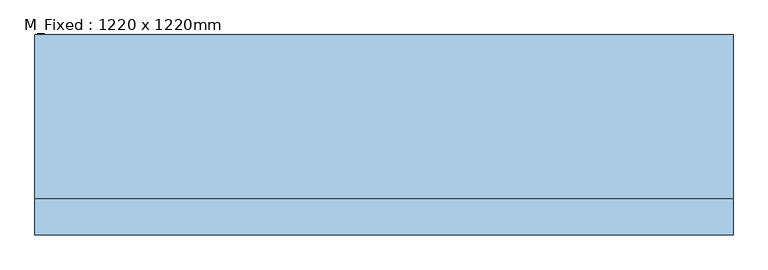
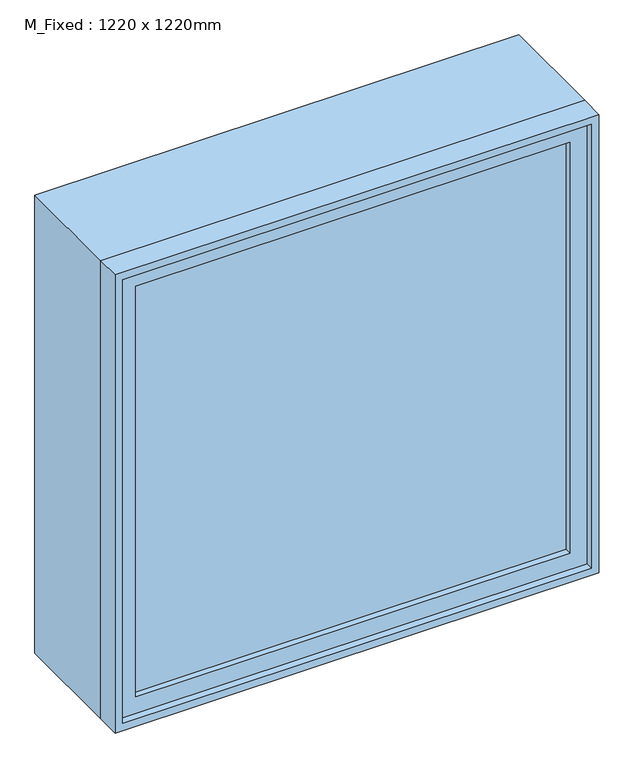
"""IFC4 building model written with IfcOpenShell, lengths in millimetres: window geometry, M_Fixed : 1220 x 1220mm."""

from ifc_helpers import new_model, si_unit, frame, origin, place, context, project, spatial, polyline, outline, extrude, source, transform, mapped, element, save


def m_fixed_1220_x_1220mm_8f5f8ad3(model_context):
    return source(origin(), model_context, "Body", "SweptSolid", [
        extrude(outline(polyline([(-547.0, -153.0), (-547.0, -141.0), (547.0, -141.0), (547.0, -153.0), (-547.0, -153.0)])), frame((0.0, 0.0, 978.0), z_axis=(0.0, 0.0, 1.0), x_axis=(1.0, 0.0, 0.0)), (0.0, 0.0, 1.0), 1094.0),
        extrude(outline(polyline([(2116.0, -591.0), (934.0, -591.0), (934.0, 591.0), (2116.0, 591.0), (2116.0, -591.0)]), holes=[polyline([(2072.0, -547.0), (2072.0, 547.0), (978.0, 547.0), (978.0, -547.0), (2072.0, -547.0)])]), frame((0.0, -169.0, 0.0), z_axis=(0.0, 1.0, 0.0), x_axis=(0.0, 0.0, 1.0)), (0.0, 0.0, 1.0), 44.0),
        extrude(outline(polyline([(2135.0, -610.0), (915.0, -610.0), (915.0, 610.0), (2135.0, 610.0), (2135.0, -610.0)]), holes=[polyline([(2116.0, -591.0), (2116.0, 591.0), (934.0, 591.0), (934.0, -591.0), (2116.0, -591.0)])]), frame((0.0, -188.0, 0.0), z_axis=(0.0, 1.0, 0.0), x_axis=(0.0, 0.0, 1.0)), (0.0, 0.0, 1.0), 63.0),
        extrude(outline(polyline([(2135.0, -610.0), (915.0, -610.0), (915.0, 610.0), (2135.0, 610.0), (2135.0, -610.0)]), holes=[polyline([(2103.0, -578.0), (2103.0, 578.0), (947.0, 578.0), (947.0, -578.0), (2103.0, -578.0)])]), frame((0.0, -125.0, 0.0), z_axis=(0.0, 1.0, 0.0), x_axis=(0.0, 0.0, 1.0)), (0.0, 0.0, 1.0), 287.0),
    ])


if __name__ == "__main__":
    model = new_model("IFC4")
    model_context = context("Model", 3, world=origin())
    ifc_project = project(units=[si_unit("LENGTHUNIT", "METRE", prefix="MILLI")], contexts=[model_context])
    site = spatial("IfcSite", under=ifc_project)
    building = spatial("IfcBuilding", under=site)
    placement = place(None, origin())
    m_fixed_1220_x_1220mm_shape = m_fixed_1220_x_1220mm_8f5f8ad3(model_context)
    element("IfcWindow", 1, ObjectType="M_Fixed : 1220 x 1220mm", at=placement, inside=building, context=model_context, shape_type="MappedRepresentation", body=[
        mapped(m_fixed_1220_x_1220mm_shape, transform((0.0, 0.0, 0.0), x_axis=(1.0, 0.0, 0.0), y_axis=(0.0, 1.0, 0.0), z_axis=(0.0, 0.0, 1.0))),
    ])
    save(model, "model.ifc")
